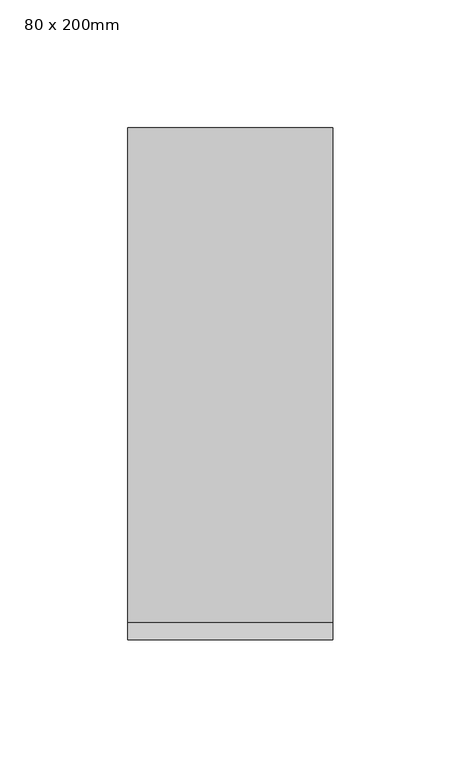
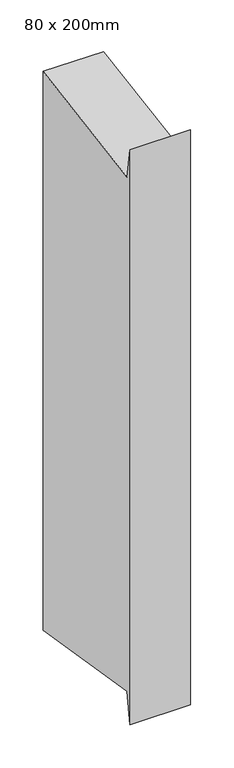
"""IFC4 building model written with IfcOpenShell, lengths in millimetres: member geometry, 矩形竖梃 : 80 x 200mm."""

from ifc_helpers import new_model, si_unit, frame, origin, place, context, project, spatial, polyline, outline, extrude, source, transform, mapped, element, save


def member_80_x_200mm_63fe5b45(model_context):
    return source(origin(), model_context, "Body", "SweptSolid", [
        extrude(outline(polyline([(-100.0, 26.9984805), (-93.1622284, -15.4559133), (100.0, 15.6550995), (100.0, -768.6260916), (-93.1622284, -737.5150787), (-100.0, -779.9694726), (-100.0, 26.9984805)])), frame((-80.0, 0.0, 0.0), z_axis=(1.0, 0.0, 0.0), x_axis=(0.0, 1.0, 0.0)), (0.0, 0.0, 1.0), 80.0),
    ])


if __name__ == "__main__":
    model = new_model("IFC4")
    model_context = context("Model", 3, world=origin())
    ifc_project = project(units=[si_unit("LENGTHUNIT", "METRE", prefix="MILLI")], contexts=[model_context])
    site = spatial("IfcSite", under=ifc_project)
    building = spatial("IfcBuilding", under=site)
    placement = place(None, origin())
    member_80_x_200mm_shape = member_80_x_200mm_63fe5b45(model_context)
    element("IfcMember", 1, ObjectType="矩形竖梃 : 80 x 200mm", at=placement, inside=building, context=model_context, shape_type="MappedRepresentation", body=[
        mapped(member_80_x_200mm_shape, transform((0.0, 0.0, 0.0), x_axis=(1.0, 0.0, 0.0), y_axis=(0.0, 1.0, 0.0), z_axis=(0.0, 0.0, 1.0))),
    ])
    save(model, "model.ifc")
